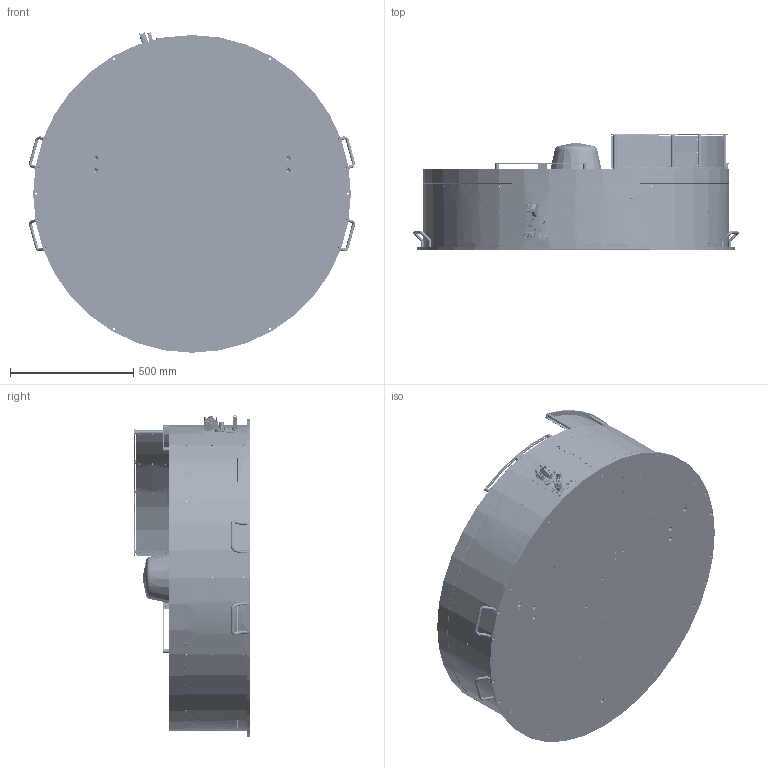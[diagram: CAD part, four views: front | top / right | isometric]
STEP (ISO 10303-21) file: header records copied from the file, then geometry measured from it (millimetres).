
FILE_DESCRIPTION (( 'STEP AP203' ), '1' );
FILE_NAME ('GM001465.STEP', '2025-10-23T07:53:41', ( '' ), ( '' ), 'SwSTEP 2.0', 'SolidWorks 2023', '' );
FILE_SCHEMA (( 'CONFIG_CONTROL_DESIGN' ));
Length unit declared in the file: millimetre
Products named in the file (43): CM002176; PD003269; CM000008; PD003267; PD000043; CE000276; CM000686_001; PD006337; PD003220; CM000008_001; PD007250; PD001119; CM000008_005; PD003261; PD003274; CM000001; CM000008_003; CM000686_002; PD006343; CE000005; CE000316; PD003235; PD003317; PD006333; PD003262; PD003259; PD003248; PD003249; PD001360_FB500; CE000013; CM000008_002; CE000420; CM000008_004; PD003244; CE000421; CM000686; GM001465; PD003219; PD008127; PD003272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
Assembly tree (69 placements, depth 3):
  GM001465
    PD008127
    PD007250
    PD003219
    PD003220
    PD003244
    PD003248  x2
    PD003249
    PD006333
    CM002176  x6
    PD001360_FB500
    CE000007
    CE000013  x2
    CE000005
    CM000008
      CM000008_001
      CM000008_003  x2
      CM000008_002
      CM000008_004
      CM000008_005
    CE000316
    CM000686
      CM000686_001
      CM000686_002
    CE000276
    CE000420
    CE000421
    PD003259  x2
    PD003261
    PD003235  x3
    PD006337  x6
    PD003267  x2
    PD000043  x4
    PD003263
    PD003272  x4
    PD003269
    PD003317
    PD001119  x2
    PD006343
    CM000001  x4
    PD003274
    PD003262
    PD006344
Bounding box: 1322.61 x 469 x 1305.28 mm (x, y, z)
Volume: 36209365.7 mm3; surface area: 11023803.6 mm2
Topology: 70 solids, 89 shells, 7793 faces, 21519 edges, 14309 vertices
Faces by surface type: plane 3751, cylinder 2166, bspline 1396, cone 368, torus 89, sphere 23
Entity records: 394325 total; most frequent: CARTESIAN_POINT 219284, ORIENTED_EDGE 39254, DIRECTION 28203, EDGE_CURVE 19829, VERTEX_POINT 13314, AXIS2_PLACEMENT_3D 9919, EDGE_LOOP 8530, VECTOR 8365
